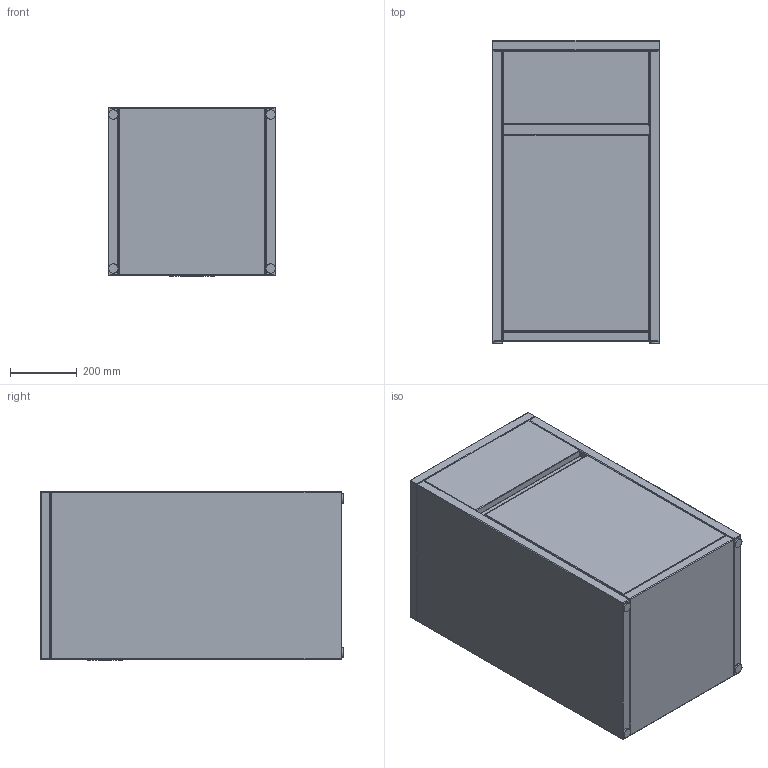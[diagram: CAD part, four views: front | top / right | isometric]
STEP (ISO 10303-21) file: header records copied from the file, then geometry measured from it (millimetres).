
FILE_DESCRIPTION(/* description */ (''),/* implementation_level */ '2;1');
FILE_NAME(/* name */ 'C:\INVENTOR\Workspace\# ARKITEKT FILER\Cabinets\Cabinet for Tank\Arbetsfiler\Cabinet for Tank.stp',/* time_stamp */ '2020-05-26T11:50:39+02:00',/* author */ ('Röshults'),/* organization */ (''),/* preprocessor_version */ 'ST-DEVELOPER v17.2',/* originating_system */ 'Autodesk Inventor 2019',/* authorisation */ '');
FILE_SCHEMA (('AUTOMOTIVE_DESIGN { 1 0 10303 214 3 1 1 }'));
Length unit declared in the file: millimetre
Products named in the file (11): Cabinet for Tank; Bottom; Side; Top; Cabinet ForTank Back; Front I; 100454; Cabinet Tank Door; Cabinet Tank Door_1; Cabinet Tank Door Plate; 100287
Assembly tree (14 placements, depth 3):
  Cabinet for Tank
    Bottom
    Side  x2
    Top
    Cabinet ForTank Back
    Front I
    100454
    Cabinet Tank Door
      Cabinet Tank Door_1
      Cabinet Tank Door Plate
    100287  x4
Bounding box: 500 x 905 x 502.67 mm (x, y, z)
Volume: 44206322.8 mm3; surface area: 4671352.4 mm2
Topology: 13 solids, 13 shells, 386 faces, 794 edges, 440 vertices
Faces by surface type: cylinder 166, plane 104, sphere 52, torus 48, cone 16
Full cylindrical faces by diameter (mm): 8 x4, 28 x4
Entity records: 9441 total; most frequent: DIRECTION 1822, CARTESIAN_POINT 1479, ORIENTED_EDGE 1432, AXIS2_PLACEMENT_3D 735, EDGE_CURVE 716, VERTEX_POINT 392, CIRCLE 362, EDGE_LOOP 354
